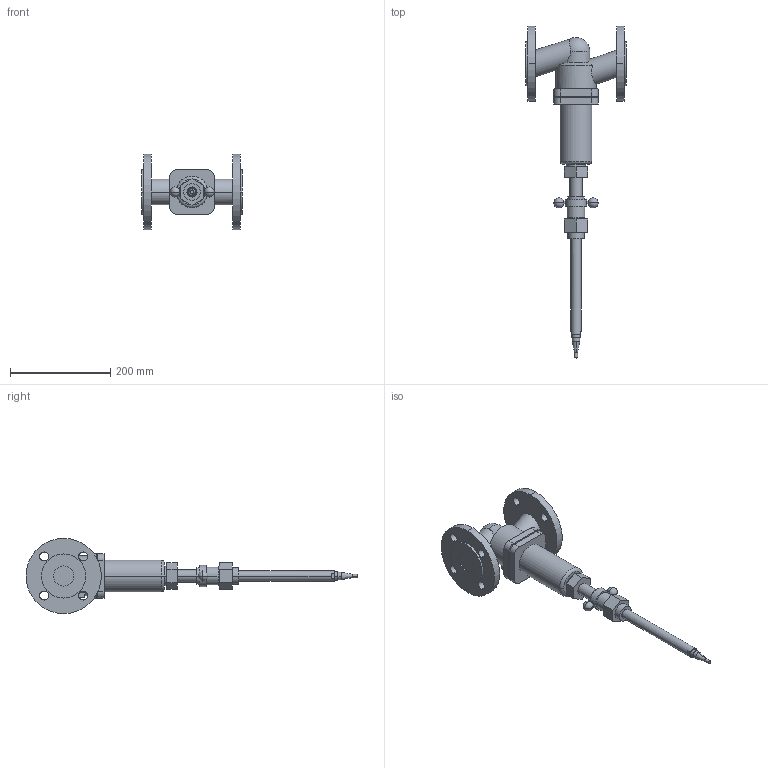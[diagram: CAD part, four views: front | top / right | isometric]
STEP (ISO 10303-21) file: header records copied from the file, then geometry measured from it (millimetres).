
FILE_DESCRIPTION(('CoCreate Modeling STEP Export'),'2;1');
FILE_NAME('c000001240.stp','2011-09-21T 9:19:24',(''),(''),'CoCreate Modeling STEP processor for AP214 (Solid Model)','CoCreate Modeling 17.0 01-Apr-2010 (C) Parametric Technology GmbH','');
FILE_SCHEMA(('AUTOMOTIVE_DESIGN { 1 0 10303 214 1 1 1 1 }'));
Length unit declared in the file: millimetre
Products named in the file (1): 1
Bounding box: 200 x 661.05 x 150 mm (x, y, z)
Volume: 1958179.5 mm3; surface area: 211976.8 mm2
Topology: 1 solids, 1 shells, 154 faces, 383 edges, 246 vertices
Faces by surface type: cylinder 74, plane 64, sphere 10, cone 4, torus 2
Entity records: 7633 total; most frequent: CARTESIAN_POINT 3032, ORIENTED_EDGE 746, DIRECTION 609, EDGE_CURVE 373, VERTEX_POINT 246, AXIS2_PLACEMENT_3D 216, EDGE_LOOP 195, VECTOR 177
